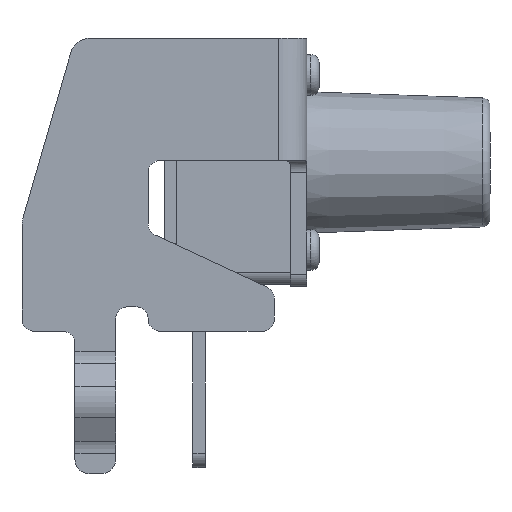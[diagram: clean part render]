
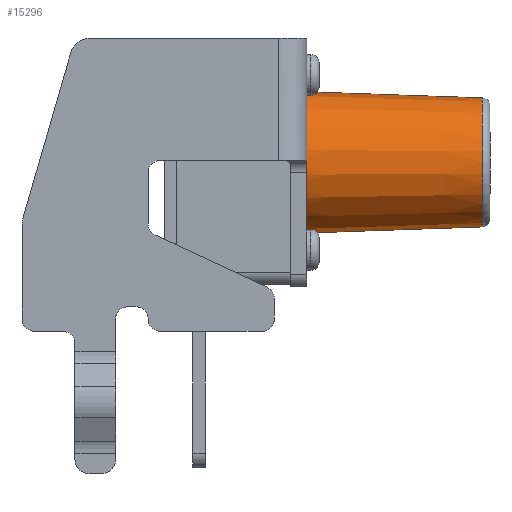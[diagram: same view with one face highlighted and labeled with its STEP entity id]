
A CAD part, left-side view. The second image highlights one B-rep face of the part: STEP entity #15296.
In plain terms, the highlighted conical face has half-angle 2 degrees and reference radius 1.75 mm.
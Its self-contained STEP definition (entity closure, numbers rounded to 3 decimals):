
#590 = CIRCLE ( 'NONE', #1205, 1.586 ) ;
#1205 = AXIS2_PLACEMENT_3D ( 'NONE', #15163, #13748, #3293 ) ;
#1220 = DIRECTION ( 'NONE',  ( 0., 0., 1. ) ) ;
#1280 = VERTEX_POINT ( 'NONE', #12179 ) ;
#1621 = EDGE_CURVE ( 'NONE', #9789, #11878, #6714, .T. ) ;
#1943 = EDGE_CURVE ( 'NONE', #9151, #1280, #3242, .T. ) ;
#2638 = ORIENTED_EDGE ( 'NONE', *, *, #18975, .T. ) ;
#2771 = VECTOR ( 'NONE', #13601, 1000. ) ;
#2859 = DIRECTION ( 'NONE',  ( 0., 1., 0. ) ) ;
#3203 = CIRCLE ( 'NONE', #16775, 1.75 ) ;
#3242 = LINE ( 'NONE', #7485, #2771 ) ;
#3293 = DIRECTION ( 'NONE',  ( 0., 0., 1. ) ) ;
#3999 = EDGE_LOOP ( 'NONE', ( #7213, #5433, #18779, #2638 ) ) ;
#4791 = EDGE_CURVE ( 'NONE', #9151, #9789, #590, .T. ) ;
#5012 = DIRECTION ( 'NONE',  ( 0., 0.999, 0.035 ) ) ;
#5225 = FACE_OUTER_BOUND ( 'NONE', #3999, .T. ) ;
#5433 = ORIENTED_EDGE ( 'NONE', *, *, #4791, .T. ) ;
#5495 = CARTESIAN_POINT ( 'NONE',  ( 0., -4.8, 4.15 ) ) ;
#5509 = DIRECTION ( 'NONE',  ( 0., 0., -1. ) ) ;
#6714 = LINE ( 'NONE', #12444, #7075 ) ;
#6724 = CARTESIAN_POINT ( 'NONE',  ( 0., -4.8, 5.9 ) ) ;
#7075 = VECTOR ( 'NONE', #5012, 1000. ) ;
#7213 = ORIENTED_EDGE ( 'NONE', *, *, #1943, .F. ) ;
#7485 = CARTESIAN_POINT ( 'NONE',  ( 0., -4.8, 2.4 ) ) ;
#8626 = CARTESIAN_POINT ( 'NONE',  ( 0., -9.507, 5.736 ) ) ;
#9047 = AXIS2_PLACEMENT_3D ( 'NONE', #5495, #2859, #1220 ) ;
#9151 = VERTEX_POINT ( 'NONE', #11100 ) ;
#9789 = VERTEX_POINT ( 'NONE', #8626 ) ;
#11100 = CARTESIAN_POINT ( 'NONE',  ( 0., -9.507, 2.564 ) ) ;
#11878 = VERTEX_POINT ( 'NONE', #6724 ) ;
#12179 = CARTESIAN_POINT ( 'NONE',  ( 0., -4.8, 2.4 ) ) ;
#12444 = CARTESIAN_POINT ( 'NONE',  ( 0., -4.8, 5.9 ) ) ;
#13601 = DIRECTION ( 'NONE',  ( 0., 0.999, -0.035 ) ) ;
#13748 = DIRECTION ( 'NONE',  ( 0., 1., 0. ) ) ;
#15163 = CARTESIAN_POINT ( 'NONE',  ( 0., -9.507, 4.15 ) ) ;
#15296 = ADVANCED_FACE ( 'NONE', ( #5225 ), #17100, .T. ) ;
#16775 = AXIS2_PLACEMENT_3D ( 'NONE', #18960, #18787, #5509 ) ;
#17100 = CONICAL_SURFACE ( 'NONE', #9047, 1.75, 0.035 ) ;
#18779 = ORIENTED_EDGE ( 'NONE', *, *, #1621, .T. ) ;
#18787 = DIRECTION ( 'NONE',  ( 0., -1., 0. ) ) ;
#18960 = CARTESIAN_POINT ( 'NONE',  ( 0., -4.8, 4.15 ) ) ;
#18975 = EDGE_CURVE ( 'NONE', #11878, #1280, #3203, .T. ) ;
